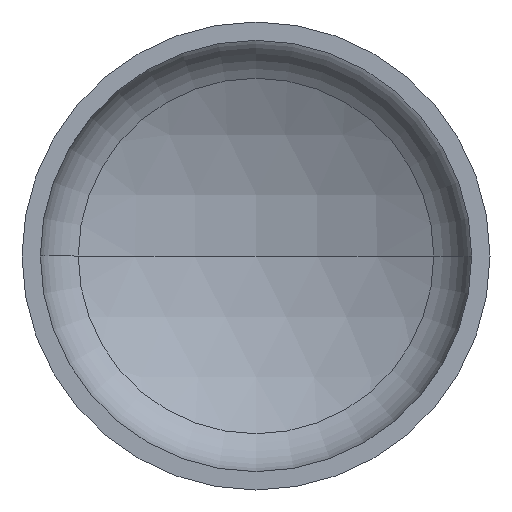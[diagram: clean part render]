
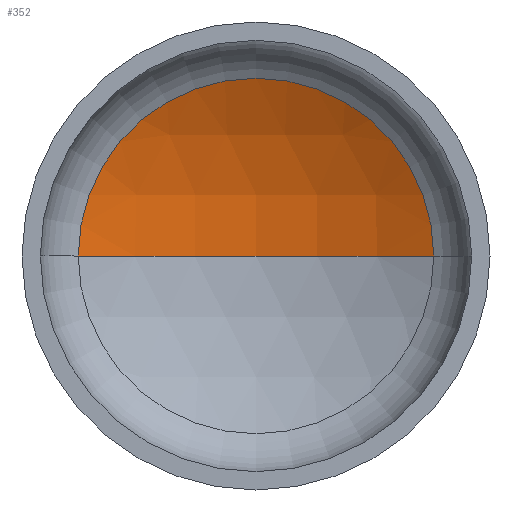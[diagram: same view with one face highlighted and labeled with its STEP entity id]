
A CAD part, front view. The second image highlights one B-rep face of the part: STEP entity #352.
In plain terms, the highlighted spherical face has radius 960 mm.
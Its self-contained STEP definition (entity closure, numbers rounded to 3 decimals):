
#8 = AXIS2_PLACEMENT_3D ( 'NONE', #281, #127, #366 ) ;
#12 = FACE_OUTER_BOUND ( 'NONE', #300, .T. ) ;
#24 = AXIS2_PLACEMENT_3D ( 'NONE', #67, #66, #62 ) ;
#25 = AXIS2_PLACEMENT_3D ( 'NONE', #249, #246, #240 ) ;
#27 = ORIENTED_EDGE ( 'NONE', *, *, #172, .T. ) ;
#29 = AXIS2_PLACEMENT_3D ( 'NONE', #169, #174, #226 ) ;
#57 = ORIENTED_EDGE ( 'NONE', *, *, #177, .T. ) ;
#62 = DIRECTION ( 'NONE',  ( 1., 0., 0. ) ) ;
#65 = VERTEX_POINT ( 'NONE', #311 ) ;
#66 = DIRECTION ( 'NONE',  ( 0., 0., 1. ) ) ;
#67 = CARTESIAN_POINT ( 'NONE',  ( 0., -532.056, 0. ) ) ;
#85 = CIRCLE ( 'NONE', #24, 960. ) ;
#98 = VERTEX_POINT ( 'NONE', #291 ) ;
#127 = DIRECTION ( 'NONE',  ( 0., 0., -1. ) ) ;
#169 = CARTESIAN_POINT ( 'NONE',  ( 0., 312.813, 0. ) ) ;
#172 = EDGE_CURVE ( 'NONE', #65, #180, #380, .T. ) ;
#174 = DIRECTION ( 'NONE',  ( 0., -1., 0. ) ) ;
#175 = CARTESIAN_POINT ( 'NONE',  ( -455.845, 312.813, 0. ) ) ;
#177 = EDGE_CURVE ( 'NONE', #98, #65, #312, .T. ) ;
#180 = VERTEX_POINT ( 'NONE', #175 ) ;
#205 = EDGE_CURVE ( 'NONE', #98, #180, #85, .T. ) ;
#226 = DIRECTION ( 'NONE',  ( 1., 0., 0. ) ) ;
#240 = DIRECTION ( 'NONE',  ( -1., 0., 0. ) ) ;
#246 = DIRECTION ( 'NONE',  ( 0., 0., -1. ) ) ;
#249 = CARTESIAN_POINT ( 'NONE',  ( 0., -532.056, 0. ) ) ;
#281 = CARTESIAN_POINT ( 'NONE',  ( 0., -532.056, 0. ) ) ;
#291 = CARTESIAN_POINT ( 'NONE',  ( 0., 427.944, 0. ) ) ;
#300 = EDGE_LOOP ( 'NONE', ( #361, #57, #27 ) ) ;
#311 = CARTESIAN_POINT ( 'NONE',  ( 455.845, 312.813, 0. ) ) ;
#312 = CIRCLE ( 'NONE', #25, 960. ) ;
#350 = SPHERICAL_SURFACE ( 'NONE', #8, 960. ) ;
#352 = ADVANCED_FACE ( 'NONE', ( #12 ), #350, .F. ) ;
#361 = ORIENTED_EDGE ( 'NONE', *, *, #205, .F. ) ;
#366 = DIRECTION ( 'NONE',  ( -1., 0., 0. ) ) ;
#380 = CIRCLE ( 'NONE', #29, 455.845 ) ;
